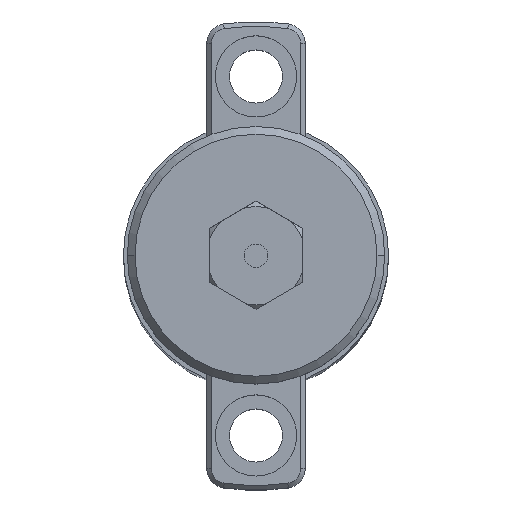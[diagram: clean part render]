
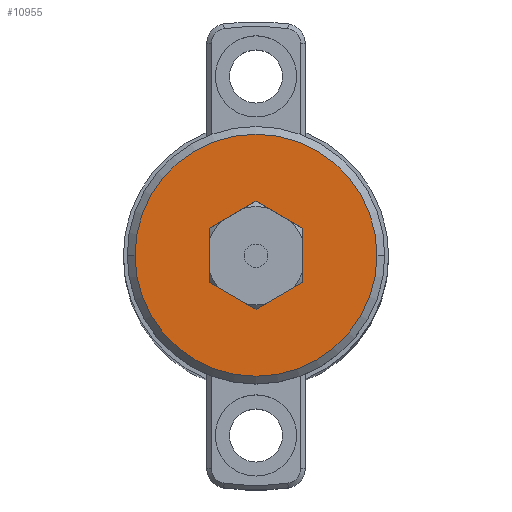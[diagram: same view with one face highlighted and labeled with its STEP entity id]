
A CAD part, top view. The second image highlights one B-rep face of the part: STEP entity #10955.
In plain terms, the highlighted planar face has unit normal (0, 0, 1).
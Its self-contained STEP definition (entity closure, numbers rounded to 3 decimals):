
#726 = CARTESIAN_POINT ( 'NONE',  ( 6., -3.464, 0. ) ) ;
#979 = LINE ( 'NONE', #11208, #10359 ) ;
#1079 = CIRCLE ( 'NONE', #2520, 15.5 ) ;
#1133 = CARTESIAN_POINT ( 'NONE',  ( 0., 6.928, 0. ) ) ;
#1272 = CARTESIAN_POINT ( 'NONE',  ( 0., 15.5, 0. ) ) ;
#1294 = LINE ( 'NONE', #1133, #14460 ) ;
#1360 = LINE ( 'NONE', #12833, #4365 ) ;
#1496 = VERTEX_POINT ( 'NONE', #3477 ) ;
#1582 = DIRECTION ( 'NONE',  ( 0.866, 0.5, 0. ) ) ;
#1859 = LINE ( 'NONE', #8709, #10080 ) ;
#2520 = AXIS2_PLACEMENT_3D ( 'NONE', #3493, #12400, #4778 ) ;
#2522 = CARTESIAN_POINT ( 'NONE',  ( -15.5, 0., 0. ) ) ;
#2571 = VERTEX_POINT ( 'NONE', #726 ) ;
#3409 = CARTESIAN_POINT ( 'NONE',  ( 15.5, 0., 0. ) ) ;
#3477 = CARTESIAN_POINT ( 'NONE',  ( 0., 6.928, 0. ) ) ;
#3493 = CARTESIAN_POINT ( 'NONE',  ( 0., 0., 0. ) ) ;
#3578 = DIRECTION ( 'NONE',  ( 0., -1., 0. ) ) ;
#3737 = VERTEX_POINT ( 'NONE', #3409 ) ;
#3740 = CARTESIAN_POINT ( 'NONE',  ( -6., 3.464, 0. ) ) ;
#4039 = EDGE_CURVE ( 'NONE', #5000, #5327, #979, .T. ) ;
#4365 = VECTOR ( 'NONE', #5207, 1000. ) ;
#4778 = DIRECTION ( 'NONE',  ( 1., 0., 0. ) ) ;
#5000 = VERTEX_POINT ( 'NONE', #11983 ) ;
#5025 = AXIS2_PLACEMENT_3D ( 'NONE', #14553, #6921, #15836 ) ;
#5082 = EDGE_LOOP ( 'NONE', ( #9865, #9723 ) ) ;
#5117 = DIRECTION ( 'NONE',  ( -1., 0., 0. ) ) ;
#5163 = ORIENTED_EDGE ( 'NONE', *, *, #8333, .F. ) ;
#5207 = DIRECTION ( 'NONE',  ( -0.866, 0.5, 0. ) ) ;
#5327 = VERTEX_POINT ( 'NONE', #8678 ) ;
#5436 = AXIS2_PLACEMENT_3D ( 'NONE', #1272, #12749, #5117 ) ;
#5780 = CIRCLE ( 'NONE', #5025, 15.5 ) ;
#6646 = ORIENTED_EDGE ( 'NONE', *, *, #4039, .F. ) ;
#6921 = DIRECTION ( 'NONE',  ( 0., 0., 1. ) ) ;
#7346 = EDGE_CURVE ( 'NONE', #1496, #13123, #1294, .T. ) ;
#7358 = DIRECTION ( 'NONE',  ( 0.866, -0.5, 0. ) ) ;
#8223 = FACE_BOUND ( 'NONE', #13645, .T. ) ;
#8333 = EDGE_CURVE ( 'NONE', #2571, #9877, #1859, .T. ) ;
#8639 = CARTESIAN_POINT ( 'NONE',  ( -6., 3.464, 0. ) ) ;
#8678 = CARTESIAN_POINT ( 'NONE',  ( 0., -6.928, 0. ) ) ;
#8709 = CARTESIAN_POINT ( 'NONE',  ( 6., -3.464, 0. ) ) ;
#8911 = EDGE_CURVE ( 'NONE', #3737, #12846, #1079, .T. ) ;
#9571 = CARTESIAN_POINT ( 'NONE',  ( 6., 3.464, 0. ) ) ;
#9723 = ORIENTED_EDGE ( 'NONE', *, *, #8911, .T. ) ;
#9865 = ORIENTED_EDGE ( 'NONE', *, *, #14918, .T. ) ;
#9877 = VERTEX_POINT ( 'NONE', #9571 ) ;
#10002 = DIRECTION ( 'NONE',  ( 0., 1., 0. ) ) ;
#10080 = VECTOR ( 'NONE', #10002, 1000. ) ;
#10359 = VECTOR ( 'NONE', #7358, 1000. ) ;
#10515 = CARTESIAN_POINT ( 'NONE',  ( 0., -6.928, 0. ) ) ;
#10955 = ADVANCED_FACE ( 'NONE', ( #8223, #12013 ), #13981, .F. ) ;
#10986 = VECTOR ( 'NONE', #3578, 1000. ) ;
#11208 = CARTESIAN_POINT ( 'NONE',  ( -6., -3.464, 0. ) ) ;
#11983 = CARTESIAN_POINT ( 'NONE',  ( -6., -3.464, 0. ) ) ;
#12013 = FACE_OUTER_BOUND ( 'NONE', #5082, .T. ) ;
#12400 = DIRECTION ( 'NONE',  ( 0., 0., 1. ) ) ;
#12683 = ORIENTED_EDGE ( 'NONE', *, *, #7346, .F. ) ;
#12749 = DIRECTION ( 'NONE',  ( 0., 0., -1. ) ) ;
#12833 = CARTESIAN_POINT ( 'NONE',  ( 6., 3.464, 0. ) ) ;
#12846 = VERTEX_POINT ( 'NONE', #2522 ) ;
#12916 = LINE ( 'NONE', #10515, #16320 ) ;
#13123 = VERTEX_POINT ( 'NONE', #3740 ) ;
#13378 = ORIENTED_EDGE ( 'NONE', *, *, #13655, .F. ) ;
#13403 = ORIENTED_EDGE ( 'NONE', *, *, #16122, .F. ) ;
#13645 = EDGE_LOOP ( 'NONE', ( #12683, #13403, #5163, #13735, #6646, #13378 ) ) ;
#13655 = EDGE_CURVE ( 'NONE', #13123, #5000, #14383, .T. ) ;
#13735 = ORIENTED_EDGE ( 'NONE', *, *, #16241, .F. ) ;
#13981 = PLANE ( 'NONE',  #5436 ) ;
#14383 = LINE ( 'NONE', #8639, #10986 ) ;
#14460 = VECTOR ( 'NONE', #15122, 1000. ) ;
#14553 = CARTESIAN_POINT ( 'NONE',  ( 0., 0., 0. ) ) ;
#14918 = EDGE_CURVE ( 'NONE', #12846, #3737, #5780, .T. ) ;
#15122 = DIRECTION ( 'NONE',  ( -0.866, -0.5, 0. ) ) ;
#15836 = DIRECTION ( 'NONE',  ( 1., 0., 0. ) ) ;
#16122 = EDGE_CURVE ( 'NONE', #9877, #1496, #1360, .T. ) ;
#16241 = EDGE_CURVE ( 'NONE', #5327, #2571, #12916, .T. ) ;
#16320 = VECTOR ( 'NONE', #1582, 1000. ) ;
